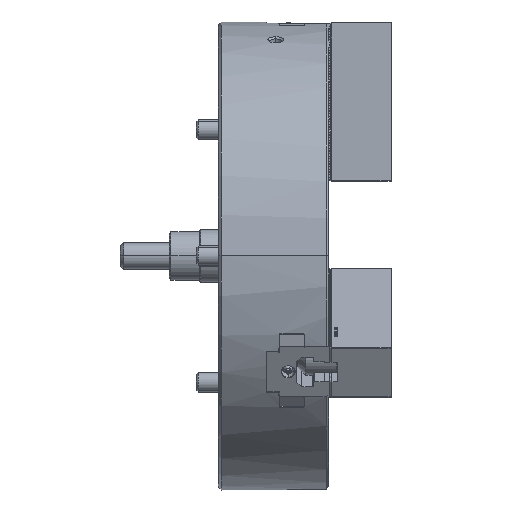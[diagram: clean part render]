
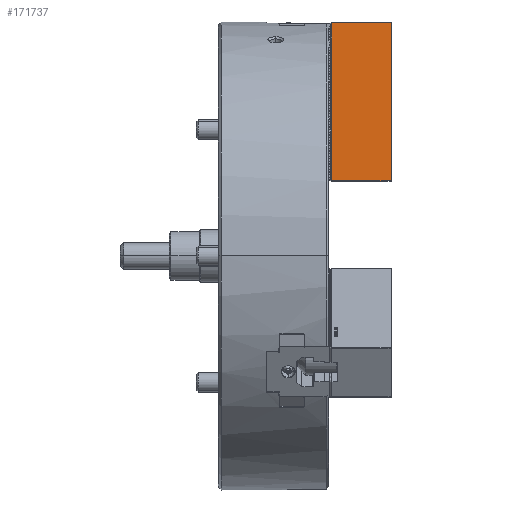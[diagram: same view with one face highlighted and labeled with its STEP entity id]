
A CAD part, top view. The second image highlights one B-rep face of the part: STEP entity #171737.
In plain terms, the highlighted planar face has unit normal (0, 0, 1).
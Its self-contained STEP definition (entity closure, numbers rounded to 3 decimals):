
#163 = DIRECTION ( 'NONE',  ( 0., -1., 0. ) ) ;
#13013 = EDGE_CURVE ( 'NONE', #41285, #214285, #189520, .T. ) ;
#14873 = PLANE ( 'NONE',  #57150 ) ;
#18953 = CARTESIAN_POINT ( 'NONE',  ( 69.4, 179.4, 32.5 ) ) ;
#25390 = ORIENTED_EDGE ( 'NONE', *, *, #138517, .T. ) ;
#30054 = LINE ( 'NONE', #97412, #109949 ) ;
#30486 = CARTESIAN_POINT ( 'NONE',  ( 70., 179.4, 32.5 ) ) ;
#41285 = VERTEX_POINT ( 'NONE', #18953 ) ;
#51251 = LINE ( 'NONE', #68652, #216283 ) ;
#57150 = AXIS2_PLACEMENT_3D ( 'NONE', #160972, #210962, #86784 ) ;
#58138 = VECTOR ( 'NONE', #135414, 1000. ) ;
#64895 = DIRECTION ( 'NONE',  ( -1., 0., 0. ) ) ;
#67997 = ORIENTED_EDGE ( 'NONE', *, *, #193269, .F. ) ;
#68652 = CARTESIAN_POINT ( 'NONE',  ( 2.5, 180., 32.5 ) ) ;
#79246 = EDGE_CURVE ( 'NONE', #150528, #41285, #170213, .T. ) ;
#86784 = DIRECTION ( 'NONE',  ( -1., 0., 0. ) ) ;
#97412 = CARTESIAN_POINT ( 'NONE',  ( 70., 0.6, 32.5 ) ) ;
#106463 = FACE_OUTER_BOUND ( 'NONE', #205087, .T. ) ;
#109364 = ORIENTED_EDGE ( 'NONE', *, *, #13013, .T. ) ;
#109949 = VECTOR ( 'NONE', #64895, 1000. ) ;
#135414 = DIRECTION ( 'NONE',  ( 0., 1., 0. ) ) ;
#138517 = EDGE_CURVE ( 'NONE', #214285, #142567, #51251, .T. ) ;
#142567 = VERTEX_POINT ( 'NONE', #220135 ) ;
#150528 = VERTEX_POINT ( 'NONE', #201098 ) ;
#152786 = CARTESIAN_POINT ( 'NONE',  ( 69.4, 0.6, 32.5 ) ) ;
#157885 = CARTESIAN_POINT ( 'NONE',  ( 2.5, 179.4, 32.5 ) ) ;
#160972 = CARTESIAN_POINT ( 'NONE',  ( 70., 0.6, 32.5 ) ) ;
#170213 = LINE ( 'NONE', #152786, #58138 ) ;
#171737 = ADVANCED_FACE ( 'NONE', ( #106463 ), #14873, .F. ) ;
#189520 = LINE ( 'NONE', #30486, #217915 ) ;
#191819 = DIRECTION ( 'NONE',  ( -1., 0., 0. ) ) ;
#193269 = EDGE_CURVE ( 'NONE', #150528, #142567, #30054, .T. ) ;
#201098 = CARTESIAN_POINT ( 'NONE',  ( 69.4, 0.6, 32.5 ) ) ;
#205087 = EDGE_LOOP ( 'NONE', ( #67997, #208977, #109364, #25390 ) ) ;
#208977 = ORIENTED_EDGE ( 'NONE', *, *, #79246, .T. ) ;
#210962 = DIRECTION ( 'NONE',  ( 0., 0., -1. ) ) ;
#214285 = VERTEX_POINT ( 'NONE', #157885 ) ;
#216283 = VECTOR ( 'NONE', #163, 1000. ) ;
#217915 = VECTOR ( 'NONE', #191819, 1000. ) ;
#220135 = CARTESIAN_POINT ( 'NONE',  ( 2.5, 0.6, 32.5 ) ) ;
